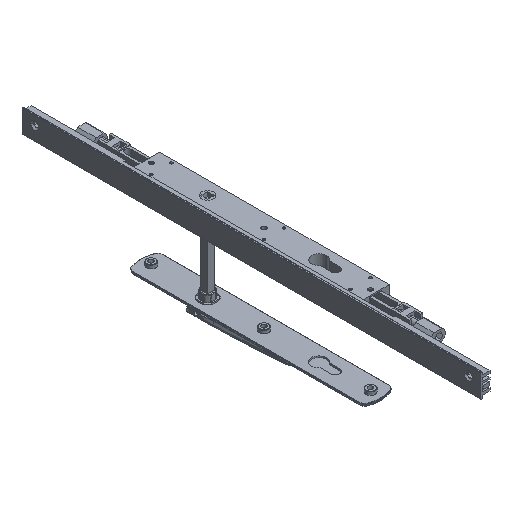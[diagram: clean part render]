
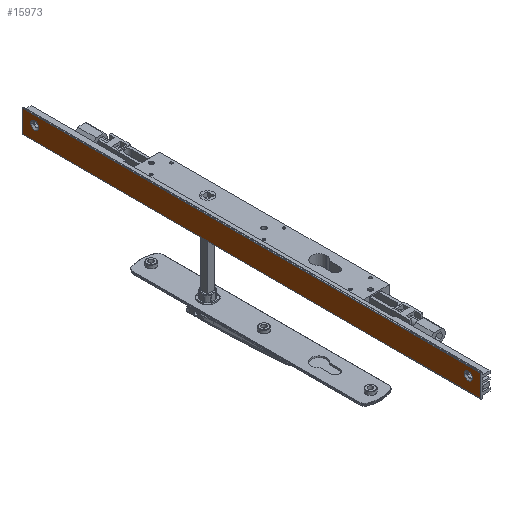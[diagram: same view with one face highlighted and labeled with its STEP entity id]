
A CAD part, isometric view. The second image highlights one B-rep face of the part: STEP entity #15973.
In plain terms, the highlighted planar face has unit normal (-1, 0, 0) as drawn and (0, 1, 0) by its records, which use the part's own axes.
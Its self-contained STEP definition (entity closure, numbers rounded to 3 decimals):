
#195 = DIRECTION ( 'NONE',  ( 0., 0., 1. ) ) ;
#270 = AXIS2_PLACEMENT_3D ( 'NONE', #12671, #22895, #22582 ) ;
#2053 = ORIENTED_EDGE ( 'NONE', *, *, #12761, .F. ) ;
#4581 = VECTOR ( 'NONE', #19331, 1000. ) ;
#4626 = VERTEX_POINT ( 'NONE', #25331 ) ;
#4950 = DIRECTION ( 'NONE',  ( 0., 1., 0. ) ) ;
#5297 = DIRECTION ( 'NONE',  ( 0., 1., 0. ) ) ;
#5701 = VERTEX_POINT ( 'NONE', #31529 ) ;
#5817 = FACE_BOUND ( 'NONE', #7218, .T. ) ;
#5988 = VECTOR ( 'NONE', #25220, 1000. ) ;
#6282 = CARTESIAN_POINT ( 'NONE',  ( 20.8, 12.4, 544. ) ) ;
#6598 = EDGE_CURVE ( 'NONE', #18458, #5701, #9722, .T. ) ;
#7147 = CARTESIAN_POINT ( 'NONE',  ( 20.8, 12.4, 0. ) ) ;
#7218 = EDGE_LOOP ( 'NONE', ( #9238, #9710 ) ) ;
#8604 = EDGE_CURVE ( 'NONE', #18458, #25618, #13124, .T. ) ;
#9238 = ORIENTED_EDGE ( 'NONE', *, *, #11845, .F. ) ;
#9500 = CARTESIAN_POINT ( 'NONE',  ( 11.8, 12.4, 524.111 ) ) ;
#9603 = DIRECTION ( 'NONE',  ( 0., 1., 0. ) ) ;
#9710 = ORIENTED_EDGE ( 'NONE', *, *, #12208, .F. ) ;
#9722 = LINE ( 'NONE', #7147, #4581 ) ;
#10117 = LINE ( 'NONE', #25068, #30716 ) ;
#11360 = VERTEX_POINT ( 'NONE', #9500 ) ;
#11630 = VECTOR ( 'NONE', #15251, 1000. ) ;
#11845 = EDGE_CURVE ( 'NONE', #21972, #11360, #26526, .T. ) ;
#11866 = EDGE_CURVE ( 'NONE', #5701, #4626, #10117, .T. ) ;
#12208 = EDGE_CURVE ( 'NONE', #11360, #21972, #15063, .T. ) ;
#12541 = AXIS2_PLACEMENT_3D ( 'NONE', #12563, #4950, #195 ) ;
#12563 = CARTESIAN_POINT ( 'NONE',  ( 11.8, 12.4, 529. ) ) ;
#12671 = CARTESIAN_POINT ( 'NONE',  ( 11.8, 12.4, 15. ) ) ;
#12761 = EDGE_CURVE ( 'NONE', #25618, #4626, #18080, .T. ) ;
#13124 = LINE ( 'NONE', #22569, #11630 ) ;
#13261 = PLANE ( 'NONE',  #13529 ) ;
#13529 = AXIS2_PLACEMENT_3D ( 'NONE', #6282, #15703, #25923 ) ;
#13577 = FACE_BOUND ( 'NONE', #15555, .T. ) ;
#14451 = CARTESIAN_POINT ( 'NONE',  ( 11.8, 12.4, 533.889 ) ) ;
#14510 = ORIENTED_EDGE ( 'NONE', *, *, #32191, .F. ) ;
#15063 = CIRCLE ( 'NONE', #27597, 4.889 ) ;
#15251 = DIRECTION ( 'NONE',  ( 0., 0., 1. ) ) ;
#15508 = DIRECTION ( 'NONE',  ( 0., 0., 1. ) ) ;
#15548 = CARTESIAN_POINT ( 'NONE',  ( 11.8, 12.4, 10.111 ) ) ;
#15555 = EDGE_LOOP ( 'NONE', ( #14510, #25519 ) ) ;
#15703 = DIRECTION ( 'NONE',  ( 0., -1., 0. ) ) ;
#15973 = ADVANCED_FACE ( 'NONE', ( #13577, #5817, #31119 ), #13261, .F. ) ;
#17428 = AXIS2_PLACEMENT_3D ( 'NONE', #29783, #9603, #19552 ) ;
#18080 = LINE ( 'NONE', #27501, #5988 ) ;
#18458 = VERTEX_POINT ( 'NONE', #30778 ) ;
#18716 = CARTESIAN_POINT ( 'NONE',  ( 11.8, 12.4, 19.89 ) ) ;
#19331 = DIRECTION ( 'NONE',  ( -1., 0., 0. ) ) ;
#19552 = DIRECTION ( 'NONE',  ( 0., 0., 1. ) ) ;
#20203 = ORIENTED_EDGE ( 'NONE', *, *, #6598, .T. ) ;
#21075 = CIRCLE ( 'NONE', #17428, 4.89 ) ;
#21972 = VERTEX_POINT ( 'NONE', #14451 ) ;
#22569 = CARTESIAN_POINT ( 'NONE',  ( 22., 12.4, 0. ) ) ;
#22582 = DIRECTION ( 'NONE',  ( 0., 0., 1. ) ) ;
#22638 = DIRECTION ( 'NONE',  ( 0., 0., 1. ) ) ;
#22642 = VERTEX_POINT ( 'NONE', #15548 ) ;
#22895 = DIRECTION ( 'NONE',  ( 0., 1., 0. ) ) ;
#23694 = ORIENTED_EDGE ( 'NONE', *, *, #8604, .F. ) ;
#24771 = CARTESIAN_POINT ( 'NONE',  ( 11.8, 12.4, 529. ) ) ;
#25068 = CARTESIAN_POINT ( 'NONE',  ( -4.4, 12.4, 0. ) ) ;
#25220 = DIRECTION ( 'NONE',  ( -1., 0., 0. ) ) ;
#25331 = CARTESIAN_POINT ( 'NONE',  ( -4.4, 12.4, 544. ) ) ;
#25519 = ORIENTED_EDGE ( 'NONE', *, *, #31603, .F. ) ;
#25618 = VERTEX_POINT ( 'NONE', #31271 ) ;
#25923 = DIRECTION ( 'NONE',  ( 1., 0., 0. ) ) ;
#26192 = CIRCLE ( 'NONE', #270, 4.89 ) ;
#26467 = ORIENTED_EDGE ( 'NONE', *, *, #11866, .T. ) ;
#26526 = CIRCLE ( 'NONE', #12541, 4.889 ) ;
#27501 = CARTESIAN_POINT ( 'NONE',  ( 20.8, 12.4, 544. ) ) ;
#27597 = AXIS2_PLACEMENT_3D ( 'NONE', #24771, #5297, #15508 ) ;
#29681 = VERTEX_POINT ( 'NONE', #18716 ) ;
#29783 = CARTESIAN_POINT ( 'NONE',  ( 11.8, 12.4, 15. ) ) ;
#30390 = EDGE_LOOP ( 'NONE', ( #20203, #26467, #2053, #23694 ) ) ;
#30716 = VECTOR ( 'NONE', #22638, 1000. ) ;
#30778 = CARTESIAN_POINT ( 'NONE',  ( 22., 12.4, 0. ) ) ;
#31119 = FACE_OUTER_BOUND ( 'NONE', #30390, .T. ) ;
#31271 = CARTESIAN_POINT ( 'NONE',  ( 22., 12.4, 544. ) ) ;
#31529 = CARTESIAN_POINT ( 'NONE',  ( -4.4, 12.4, 0. ) ) ;
#31603 = EDGE_CURVE ( 'NONE', #22642, #29681, #26192, .T. ) ;
#32191 = EDGE_CURVE ( 'NONE', #29681, #22642, #21075, .T. ) ;
